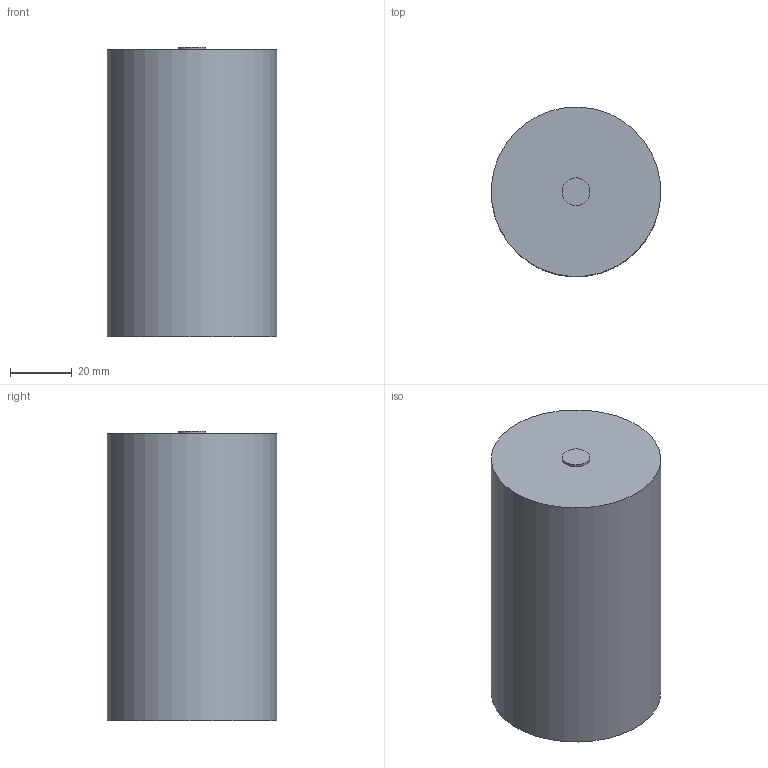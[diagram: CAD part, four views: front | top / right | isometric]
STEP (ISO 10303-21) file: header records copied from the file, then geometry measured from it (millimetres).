
FILE_DESCRIPTION(/* description */ (''),/* implementation_level */ '2;1');
FILE_NAME(/* name */ '260910_B_B785.stp',/* time_stamp */ '2026-09-10T08:21:28+02:00',/* author */ ('Dominik'),/* organization */ (''),/* preprocessor_version */ 'ST-DEVELOPER v20.1',/* originating_system */ 'Autodesk Inventor 2027',/* authorisation */ '');
FILE_SCHEMA (('AUTOMOTIVE_DESIGN { 1 0 10303 214 3 1 1 }'));
Length unit declared in the file: millimetre
Products named in the file (1): B785 jako część
Bounding box: 54.9 x 54.9 x 93.8 mm (x, y, z)
Volume: 95289.6 mm3; surface area: 47013.4 mm2
Topology: 2 solids, 4 shells, 38 faces, 64 edges, 42 vertices
Faces by surface type: plane 16, cylinder 13, cone 6, torus 2, bspline 1
Full cylindrical faces by diameter (mm): 3 x2, 4 x2, 9 x1, 50 x3, 50.6 x1, 51 x3, 55 x1
Entity records: 1065 total; most frequent: DIRECTION 185, CARTESIAN_POINT 171, ORIENTED_EDGE 128, AXIS2_PLACEMENT_3D 83, EDGE_CURVE 64, EDGE_LOOP 50, CIRCLE 45, VERTEX_POINT 42
